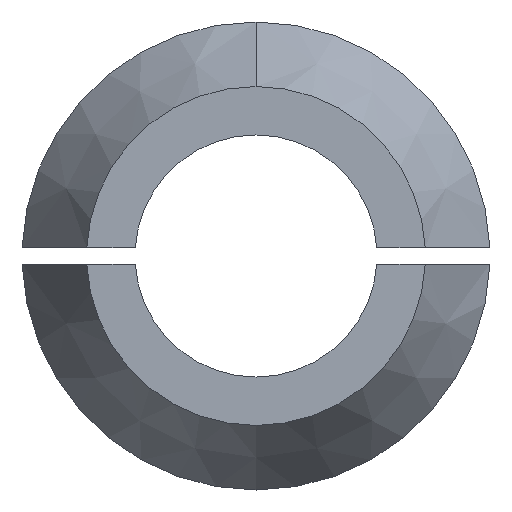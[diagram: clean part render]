
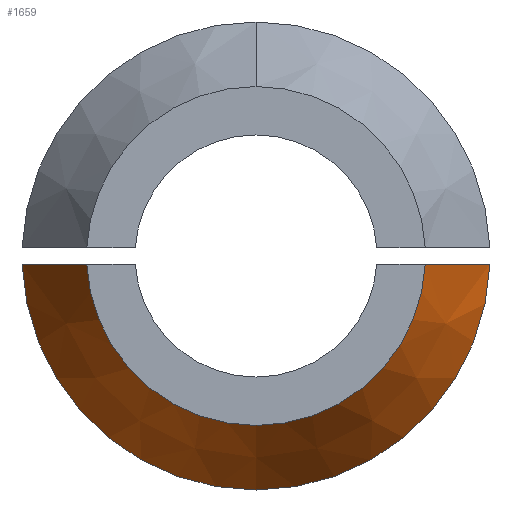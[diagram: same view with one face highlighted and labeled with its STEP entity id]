
A CAD part, front view. The second image highlights one B-rep face of the part: STEP entity #1659.
In plain terms, the highlighted conical face has half-angle 30 degrees and reference radius 10.5 mm.
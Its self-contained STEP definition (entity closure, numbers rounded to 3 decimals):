
#4 = DIRECTION ( 'NONE',  ( 0., 0., -1. ) ) ;
#8 = CARTESIAN_POINT ( 'NONE',  ( 0., -9.928, 0. ) ) ;
#84 = EDGE_CURVE ( 'NONE', #1693, #613, #727, .T. ) ;
#134 = CARTESIAN_POINT ( 'NONE',  ( -14.491, -3., -0.5 ) ) ;
#142 = DIRECTION ( 'NONE',  ( 0., -1., 0. ) ) ;
#261 = CIRCLE ( 'NONE', #1423, 14.5 ) ;
#308 = CARTESIAN_POINT ( 'NONE',  ( -10.488, -9.928, -0.5 ) ) ;
#318 = CIRCLE ( 'NONE', #664, 14.5 ) ;
#374 = EDGE_CURVE ( 'NONE', #613, #1343, #799, .T. ) ;
#417 = CARTESIAN_POINT ( 'NONE',  ( 13.157, -5.31, -0.5 ) ) ;
#429 = EDGE_CURVE ( 'NONE', #507, #1557, #318, .T. ) ;
#467 = CARTESIAN_POINT ( 'NONE',  ( -10.488, -9.928, -0.5 ) ) ;
#484 = AXIS2_PLACEMENT_3D ( 'NONE', #8, #1235, #563 ) ;
#507 = VERTEX_POINT ( 'NONE', #134 ) ;
#523 = CARTESIAN_POINT ( 'NONE',  ( 0., -3., 0. ) ) ;
#536 = DIRECTION ( 'NONE',  ( 0., -1., 0. ) ) ;
#549 = CARTESIAN_POINT ( 'NONE',  ( -14.491, -3., -0.5 ) ) ;
#563 = DIRECTION ( 'NONE',  ( 0., 0., -1. ) ) ;
#576 = ORIENTED_EDGE ( 'NONE', *, *, #969, .T. ) ;
#613 = VERTEX_POINT ( 'NONE', #837 ) ;
#664 = AXIS2_PLACEMENT_3D ( 'NONE', #1253, #142, #4 ) ;
#711 = DIRECTION ( 'NONE',  ( 0., 1., 0. ) ) ;
#716 = FACE_OUTER_BOUND ( 'NONE', #1460, .T. ) ;
#727 = CIRCLE ( 'NONE', #484, 10.5 ) ;
#732 = ORIENTED_EDGE ( 'NONE', *, *, #374, .F. ) ;
#771 = AXIS2_PLACEMENT_3D ( 'NONE', #841, #711, #1537 ) ;
#781 = CARTESIAN_POINT ( 'NONE',  ( 14.491, -3., -0.5 ) ) ;
#799 = B_SPLINE_CURVE_WITH_KNOTS ( 'NONE', 3,
 ( #1103, #1492, #417, #1511 ),
 .UNSPECIFIED., .F., .F.,
 ( 4, 4 ),
 ( 0.069, 0.077 ),
 .UNSPECIFIED. ) ;
#837 = CARTESIAN_POINT ( 'NONE',  ( 10.488, -9.928, -0.5 ) ) ;
#841 = CARTESIAN_POINT ( 'NONE',  ( 0., -9.928, 0. ) ) ;
#853 = ORIENTED_EDGE ( 'NONE', *, *, #1096, .F. ) ;
#873 = CARTESIAN_POINT ( 'NONE',  ( -11.823, -7.619, -0.5 ) ) ;
#906 = B_SPLINE_CURVE_WITH_KNOTS ( 'NONE', 3,
 ( #549, #1646, #873, #467 ),
 .UNSPECIFIED., .F., .F.,
 ( 4, 4 ),
 ( 0.021, 0.029 ),
 .UNSPECIFIED. ) ;
#969 = EDGE_CURVE ( 'NONE', #1557, #1343, #261, .T. ) ;
#1096 = EDGE_CURVE ( 'NONE', #507, #1693, #906, .T. ) ;
#1103 = CARTESIAN_POINT ( 'NONE',  ( 10.488, -9.928, -0.5 ) ) ;
#1184 = ORIENTED_EDGE ( 'NONE', *, *, #429, .T. ) ;
#1235 = DIRECTION ( 'NONE',  ( 0., -1., 0. ) ) ;
#1253 = CARTESIAN_POINT ( 'NONE',  ( 0., -3., 0. ) ) ;
#1343 = VERTEX_POINT ( 'NONE', #781 ) ;
#1423 = AXIS2_PLACEMENT_3D ( 'NONE', #523, #536, #1614 ) ;
#1460 = EDGE_LOOP ( 'NONE', ( #853, #1184, #576, #732, #1520 ) ) ;
#1492 = CARTESIAN_POINT ( 'NONE',  ( 11.823, -7.619, -0.5 ) ) ;
#1511 = CARTESIAN_POINT ( 'NONE',  ( 14.491, -3., -0.5 ) ) ;
#1520 = ORIENTED_EDGE ( 'NONE', *, *, #84, .F. ) ;
#1537 = DIRECTION ( 'NONE',  ( 0., 0., 1. ) ) ;
#1557 = VERTEX_POINT ( 'NONE', #1717 ) ;
#1614 = DIRECTION ( 'NONE',  ( 0., 0., -1. ) ) ;
#1646 = CARTESIAN_POINT ( 'NONE',  ( -13.157, -5.31, -0.5 ) ) ;
#1659 = ADVANCED_FACE ( 'NONE', ( #716 ), #1723, .T. ) ;
#1693 = VERTEX_POINT ( 'NONE', #308 ) ;
#1717 = CARTESIAN_POINT ( 'NONE',  ( 0., -3., -14.5 ) ) ;
#1723 = CONICAL_SURFACE ( 'NONE', #771, 10.5, 0.524 ) ;
